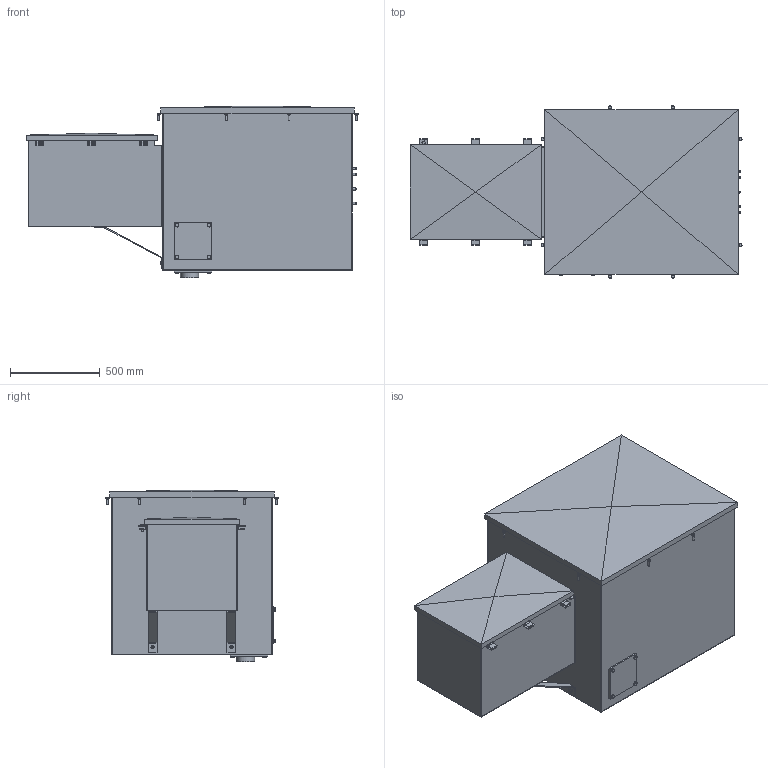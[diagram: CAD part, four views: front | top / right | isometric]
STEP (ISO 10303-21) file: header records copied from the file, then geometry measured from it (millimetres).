
FILE_DESCRIPTION(/* description */ (''),/* implementation_level */ '2;1');
FILE_NAME(/* name */ 'K:\MANDARIC\77526.stp',/* time_stamp */ '2017-11-30T16:57:09+01:00',/* author */ ('milman01'),/* organization */ ('Hillmar Industries Ltd.'),/* preprocessor_version */ 'ST-DEVELOPER v16.1',/* originating_system */ 'Autodesk Inventor 2016',/* authorisation */ '');
FILE_SCHEMA (('AUTOMOTIVE_DESIGN { 1 0 10303 214 3 1 1 }'));
Length unit declared in the file: millimetre
Products named in the file (1): 77526 ENP4-15KV-FO ENC & FO WITH COVER & GLAND
Bounding box: 1851.83 x 960.47 x 959.36 mm (x, y, z)
Volume: 61523907.4 mm3; surface area: 15099069 mm2
Topology: 10 solids, 10 shells, 811 faces, 1848 edges, 1150 vertices
Faces by surface type: plane 459, cone 197, cylinder 155
Full cylindrical faces by diameter (mm): 9.188 x11, 10 x12, 11 x4, 11.053 x15, 12 x29, 15.4 x11, 17.2 x15, 76.2 x1, 101.6 x1, 118.3 x2, 120 x1, 254 x1
Entity records: 22004 total; most frequent: CARTESIAN_POINT 4210, DIRECTION 3474, ORIENTED_EDGE 3348, EDGE_CURVE 1664, AXIS2_PLACEMENT_3D 1310, VERTEX_POINT 1110, EDGE_LOOP 1088, LINE 854
